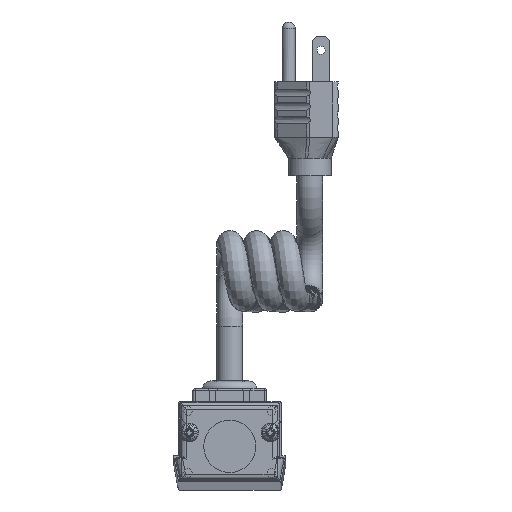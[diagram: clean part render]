
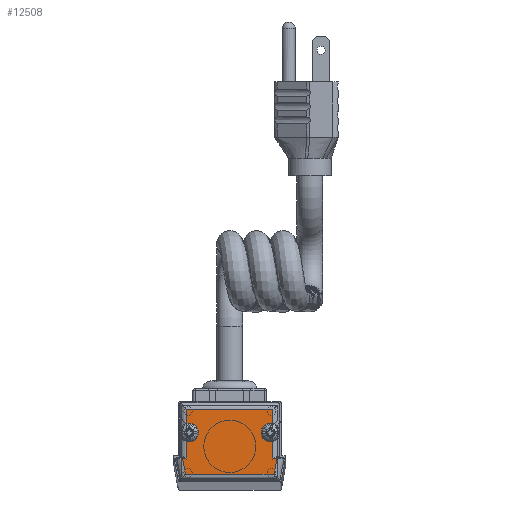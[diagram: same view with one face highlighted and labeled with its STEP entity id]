
A CAD part, top view. The second image highlights one B-rep face of the part: STEP entity #12508.
In plain terms, the highlighted planar face has unit normal (0, 0, 1).
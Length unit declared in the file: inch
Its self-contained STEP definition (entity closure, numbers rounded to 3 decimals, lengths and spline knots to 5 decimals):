
#945=CIRCLE('',#13544,1.5875);
#947=CIRCLE('',#13547,1.5875);
#948=CIRCLE('',#13548,1.5875);
#1564=FACE_OUTER_BOUND('',#2286,.T.);
#2286=EDGE_LOOP('',(#9180,#9181,#9182,#9183,#9184,#9185,#9186,#9187,#9188,
#9189,#9190,#9191,#9192));
#3231=LINE('',#18500,#4401);
#3232=LINE('',#18502,#4402);
#3233=LINE('',#18504,#4403);
#3234=LINE('',#18506,#4404);
#3235=LINE('',#18508,#4405);
#3236=LINE('',#18510,#4406);
#3237=LINE('',#18511,#4407);
#3238=LINE('',#18513,#4408);
#3239=LINE('',#18515,#4409);
#3240=LINE('',#18516,#4410);
#4401=VECTOR('',#15193,10.);
#4402=VECTOR('',#15194,10.);
#4403=VECTOR('',#15195,10.);
#4404=VECTOR('',#15196,10.);
#4405=VECTOR('',#15197,10.);
#4406=VECTOR('',#15198,10.);
#4407=VECTOR('',#15199,10.);
#4408=VECTOR('',#15200,10.);
#4409=VECTOR('',#15201,10.);
#4410=VECTOR('',#15202,10.);
#5511=VERTEX_POINT('',#18456);
#5512=VERTEX_POINT('',#18465);
#5514=VERTEX_POINT('',#18478);
#5515=VERTEX_POINT('',#18480);
#5516=VERTEX_POINT('',#18482);
#5517=VERTEX_POINT('',#18499);
#5518=VERTEX_POINT('',#18501);
#5519=VERTEX_POINT('',#18503);
#5520=VERTEX_POINT('',#18505);
#5521=VERTEX_POINT('',#18507);
#5522=VERTEX_POINT('',#18509);
#5523=VERTEX_POINT('',#18512);
#5524=VERTEX_POINT('',#18514);
#6883=EDGE_CURVE('',#5512,#5511,#945,.T.);
#6887=EDGE_CURVE('',#5515,#5514,#947,.T.);
#6889=EDGE_CURVE('',#5514,#5516,#948,.T.);
#6890=EDGE_CURVE('',#5517,#5511,#3231,.T.);
#6891=EDGE_CURVE('',#5518,#5517,#3232,.T.);
#6892=EDGE_CURVE('',#5519,#5518,#3233,.T.);
#6893=EDGE_CURVE('',#5520,#5519,#3234,.T.);
#6894=EDGE_CURVE('',#5521,#5520,#3235,.T.);
#6895=EDGE_CURVE('',#5522,#5521,#3236,.T.);
#6896=EDGE_CURVE('',#5515,#5522,#3237,.T.);
#6897=EDGE_CURVE('',#5523,#5516,#3238,.T.);
#6898=EDGE_CURVE('',#5524,#5523,#3239,.T.);
#6899=EDGE_CURVE('',#5512,#5524,#3240,.T.);
#9180=ORIENTED_EDGE('',*,*,#6883,.T.);
#9181=ORIENTED_EDGE('',*,*,#6890,.F.);
#9182=ORIENTED_EDGE('',*,*,#6891,.F.);
#9183=ORIENTED_EDGE('',*,*,#6892,.F.);
#9184=ORIENTED_EDGE('',*,*,#6893,.F.);
#9185=ORIENTED_EDGE('',*,*,#6894,.F.);
#9186=ORIENTED_EDGE('',*,*,#6895,.F.);
#9187=ORIENTED_EDGE('',*,*,#6896,.F.);
#9188=ORIENTED_EDGE('',*,*,#6887,.T.);
#9189=ORIENTED_EDGE('',*,*,#6889,.T.);
#9190=ORIENTED_EDGE('',*,*,#6897,.F.);
#9191=ORIENTED_EDGE('',*,*,#6898,.F.);
#9192=ORIENTED_EDGE('',*,*,#6899,.F.);
#12092=PLANE('',#13549);
#12508=ADVANCED_FACE('',(#1564),#12092,.T.);
#13544=AXIS2_PLACEMENT_3D('',#18466,#15180,#15181);
#13547=AXIS2_PLACEMENT_3D('',#18481,#15187,#15188);
#13548=AXIS2_PLACEMENT_3D('',#18497,#15189,#15190);
#13549=AXIS2_PLACEMENT_3D('',#18498,#15191,#15192);
#15180=DIRECTION('center_axis',(0.,0.,-1.));
#15181=DIRECTION('ref_axis',(1.,0.,0.));
#15187=DIRECTION('center_axis',(0.,0.,-1.));
#15188=DIRECTION('ref_axis',(1.,0.,0.));
#15189=DIRECTION('center_axis',(0.,0.,-1.));
#15190=DIRECTION('ref_axis',(1.,0.,0.));
#15191=DIRECTION('center_axis',(0.,0.,1.));
#15192=DIRECTION('ref_axis',(1.,0.,0.));
#15193=DIRECTION('',(0.,1.,0.));
#15194=DIRECTION('',(0.996,-0.087,0.));
#15195=DIRECTION('',(-0.191,0.982,0.));
#15196=DIRECTION('',(-1.,0.,0.));
#15197=DIRECTION('',(-0.191,-0.982,0.));
#15198=DIRECTION('',(0.996,0.087,0.));
#15199=DIRECTION('',(0.,-1.,0.));
#15200=DIRECTION('',(0.,-1.,0.));
#15201=DIRECTION('',(1.,0.,0.));
#15202=DIRECTION('',(0.,1.,0.));
#18456=CARTESIAN_POINT('',(-15.7226,16.40547,2.54));
#18465=CARTESIAN_POINT('',(-15.7226,19.05293,2.54));
#18466=CARTESIAN_POINT('Origin',(-14.8463,17.7292,2.54));
#18478=CARTESIAN_POINT('',(13.2588,17.7292,2.54));
#18480=CARTESIAN_POINT('',(15.7226,16.40547,2.54));
#18481=CARTESIAN_POINT('Origin',(14.8463,17.7292,2.54));
#18482=CARTESIAN_POINT('',(15.7226,19.05293,2.54));
#18497=CARTESIAN_POINT('Origin',(14.8463,17.7292,2.54));
#18498=CARTESIAN_POINT('Origin',(0.,14.10876,
2.54));
#18499=CARTESIAN_POINT('',(-15.7226,8.06566,2.54));
#18500=CARTESIAN_POINT('',(-15.7226,11.38955,2.54));
#18501=CARTESIAN_POINT('',(-17.26917,8.20097,2.54));
#18502=CARTESIAN_POINT('',(-10.32721,7.59363,2.54));
#18503=CARTESIAN_POINT('',(-16.16879,2.54,2.54));
#18504=CARTESIAN_POINT('',(-16.75812,5.57187,2.54));
#18505=CARTESIAN_POINT('',(16.16879,2.54,2.54));
#18506=CARTESIAN_POINT('',(9.1313,2.54,2.54));
#18507=CARTESIAN_POINT('',(17.26917,8.20097,2.54));
#18508=CARTESIAN_POINT('',(17.61537,9.98204,2.54));
#18509=CARTESIAN_POINT('',(15.7226,8.06566,2.54));
#18510=CARTESIAN_POINT('',(9.46996,7.51863,2.54));
#18511=CARTESIAN_POINT('',(15.7226,21.34188,2.54));
#18512=CARTESIAN_POINT('',(15.7226,26.035,2.54));
#18513=CARTESIAN_POINT('',(15.7226,21.34188,2.54));
#18514=CARTESIAN_POINT('',(-15.7226,26.035,2.54));
#18515=CARTESIAN_POINT('',(-9.1313,26.035,2.54));
#18516=CARTESIAN_POINT('',(-15.7226,11.38955,2.54));
